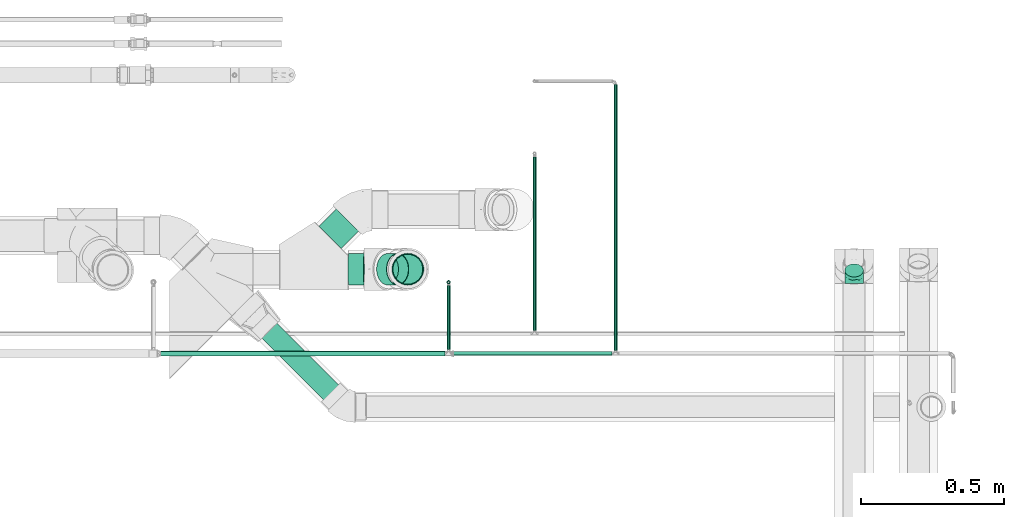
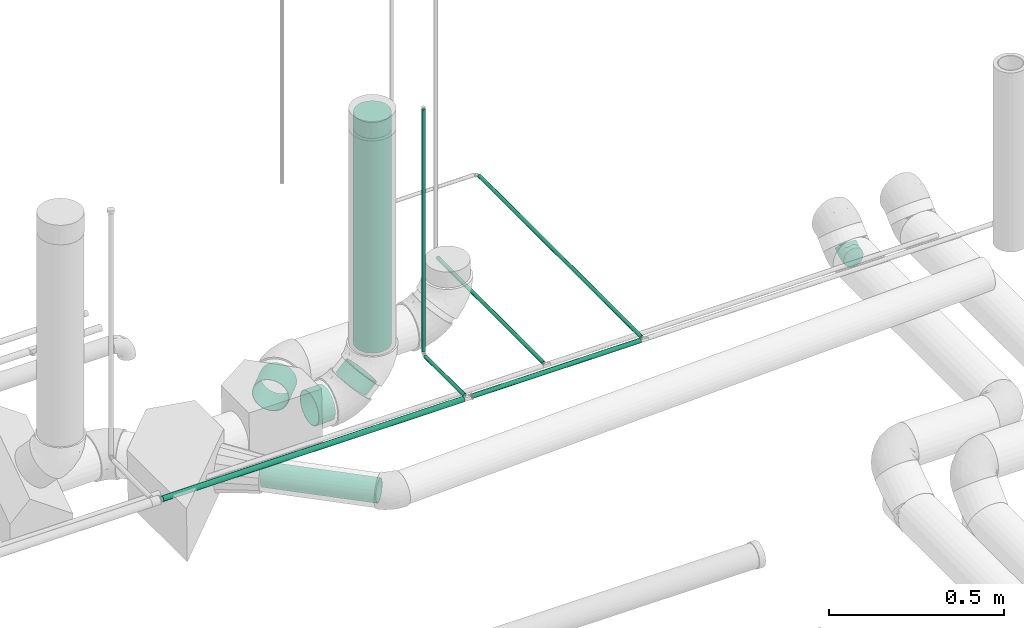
# One storey, part 60 of 156: 11 flow segments, 2 flow fittings.
"""IFC2X3 building model written with IfcOpenShell, lengths in millimetres."""

from ifc_helpers import new_model, entity, si_unit, converted_unit, derived_unit, direction, frame, origin_with_axes, origin_2d_with_axis, place, context, subcontext, project, spatial, hollow_circle, extrude, open_shell, surface_model, source, transform, mapped, type_object, element, save


model = new_model("IFC2X3")

# Units and contexts
model_context = context("Model", 3, precision=0.01, world=frame((0.0, 4.29681676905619e-09, 0.0)), true_north=direction((4.01073788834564e-13, 1.0)))
plan_context = context("Plan", 3, precision=0.01, world=frame((0.0, 4.29681676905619e-09, 0.0)), true_north=direction((4.01073788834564e-13, 1.0)))
body_context = subcontext(model_context, "Body", "Model", "MODEL_VIEW")
ifc_project = project(units=[converted_unit("PLANEANGLEUNIT", "DEGREE", entity("IfcPositiveLengthMeasure", 0.0174532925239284), si_unit("PLANEANGLEUNIT", "RADIAN"), dimensions=[0, 0, 0, 0, 0, 0, 0]), si_unit("AREAUNIT", "SQUARE_METRE"), si_unit("LENGTHUNIT", "METRE", prefix="MILLI"), si_unit("MASSUNIT", "GRAM", prefix="KILO"), si_unit("POWERUNIT", "WATT"), si_unit("PRESSUREUNIT", "PASCAL", prefix="KILO"), si_unit("FORCEUNIT", "NEWTON", prefix="KILO"), si_unit("ELECTRICVOLTAGEUNIT", "VOLT"), si_unit("ELECTRICCURRENTUNIT", "AMPERE"), si_unit("THERMODYNAMICTEMPERATUREUNIT", "DEGREE_CELSIUS"), si_unit("TIMEUNIT", "SECOND"), si_unit("VOLUMEUNIT", "CUBIC_METRE"), derived_unit("LINEARVELOCITYUNIT", [(si_unit("LENGTHUNIT", "METRE"), 1), (si_unit("TIMEUNIT", "SECOND"), -1)]), derived_unit("VOLUMETRICFLOWRATEUNIT", [(si_unit("VOLUMEUNIT", "CUBIC_METRE"), 1), (si_unit("TIMEUNIT", "SECOND"), -1)]), derived_unit("THERMALTRANSMITTANCEUNIT", [(si_unit("POWERUNIT", "WATT"), 1), (si_unit("THERMODYNAMICTEMPERATUREUNIT", "KELVIN"), -1), (si_unit("AREAUNIT", "SQUARE_METRE"), -1)]), derived_unit("SOUNDPRESSUREUNIT", [(si_unit("PRESSUREUNIT", "PASCAL"), 1)])], contexts=[model_context, plan_context])

# Site, building, storey
site_placement = place(None, frame((0.0, -4.29681676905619e-09, 0.0), z_axis=(0.0, 0.0, 1.0), x_axis=(1.0, 0.0, 0.0)))
site = spatial("IfcSite", under=ifc_project, at=site_placement, CompositionType="ELEMENT")
building_placement = place(site_placement, frame((0.0, 4.29681676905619e-09, 0.0), z_axis=(0.0, 0.0, 1.0), x_axis=(1.0, 0.0, 0.0)))
building = spatial("IfcBuilding", under=site, at=building_placement, Name="mc-building", CompositionType="ELEMENT")
storey_placement = place(building_placement, frame((0.0, 0.0, 205200.0), z_axis=(0.0, 0.0, 1.0), x_axis=(1.0, 0.0, 0.0)))
storey = spatial("IfcBuildingStorey", under=building, at=storey_placement, Name="Nivå D + 1,2 m", CompositionType="ELEMENT", Elevation=205200.0)

# Flow fittings
pipe_fitting_type_1 = type_object("IfcPipeFittingType", Name="magi_pipe_fe_plug_001", PredefinedType="OBSTRUCTION")
shared_shape_1 = source(origin_with_axes(), body_context, "Body", "SurfaceModel", [
    surface_model("IfcShellBasedSurfaceModel", [(0.0, 27.5, -47.63139), (0.0, 14.23505, -53.12592), (0.0, 0.0, -55.0), (0.0, -38.89087, -38.89087), (0.0, 47.63139, -27.5), (0.0, 38.89087, -38.89087), (0.0, 53.12592, -14.23505), (0.0, -47.63139, -27.5), (0.0, -14.23505, -53.12592), (0.0, -27.5, -47.63139), (0.0, -53.12592, -14.23505), (0.0, -55.0, 0.0), (0.0, 55.0, 0.0), (0.0, 47.63139, 27.5), (0.0, 53.12592, 14.23505), (0.0, 27.5, 47.63139), (0.0, -38.89087, 38.89087), (0.0, 38.89087, 38.89087), (0.0, 14.23505, 53.12592), (0.0, 0.0, 55.0), (0.0, -47.63139, 27.5), (0.0, -53.12592, 14.23505), (0.0, -14.23505, 53.12592), (0.0, -27.5, 47.63139), (55.0, 0.0, -55.0), (55.0, 14.23505, -53.12592), (55.0, 27.5, -47.63139), (55.0, -38.89087, -38.89087), (55.0, 47.63139, -27.5), (55.0, 38.89087, -38.89087), (55.0, -53.12592, 14.23505), (55.0, -27.5, -47.63139), (55.0, -14.23505, -53.12592), (55.0, -47.63139, -27.5), (55.0, -55.0, 0.0), (55.0, -53.12592, -14.23505), (55.0, 53.12592, -14.23505), (55.0, 55.0, 0.0), (55.0, 53.12592, 14.23505), (55.0, 47.63139, 27.5), (55.0, -38.89087, 38.89087), (55.0, 27.5, 47.63139), (55.0, 38.89087, 38.89087), (55.0, 0.0, 55.0), (55.0, 14.23505, 53.12592), (55.0, -47.63139, 27.5), (55.0, -27.5, 47.63139), (55.0, -14.23505, 53.12592)], [open_shell([[[0, 1, 2]], [[0, 2, 3]], [[4, 0, 3]], [[5, 0, 4]], [[6, 4, 7]], [[8, 9, 2]], [[9, 3, 2]], [[10, 11, 7]], [[4, 3, 7]], [[6, 7, 11]], [[11, 12, 6]], [[13, 14, 12]], [[15, 13, 12]], [[16, 15, 12]], [[17, 13, 15]], [[18, 15, 19]], [[20, 16, 21]], [[21, 16, 11]], [[22, 19, 23]], [[16, 23, 19]], [[16, 19, 15]], [[12, 11, 16]], [[24, 25, 26]], [[27, 24, 26]], [[27, 26, 28]], [[28, 26, 29]], [[28, 30, 27]], [[24, 31, 32]], [[24, 27, 31]], [[33, 34, 35]], [[34, 33, 27]], [[27, 30, 34]], [[28, 36, 30]], [[37, 38, 39]], [[40, 37, 39]], [[40, 39, 41]], [[41, 39, 42]], [[43, 41, 44]], [[30, 40, 45]], [[30, 37, 40]], [[46, 43, 47]], [[43, 46, 40]], [[41, 43, 40]], [[37, 30, 36]], [[11, 34, 30]], [[21, 30, 45]], [[23, 40, 46]], [[22, 46, 47]], [[45, 40, 16]], [[45, 20, 21]], [[21, 11, 30]], [[16, 40, 23]], [[23, 46, 22]], [[47, 19, 22]], [[16, 20, 45]], [[47, 43, 19]], [[15, 44, 41]], [[42, 17, 41]], [[14, 39, 38]], [[42, 39, 13]], [[12, 38, 37]], [[44, 18, 43]], [[44, 15, 18]], [[43, 18, 19]], [[41, 17, 15]], [[42, 13, 17]], [[14, 13, 39]], [[38, 12, 14]], [[36, 12, 37]], [[28, 6, 36]], [[29, 26, 5]], [[28, 29, 4]], [[1, 26, 25]], [[28, 4, 6]], [[6, 12, 36]], [[0, 5, 26]], [[2, 1, 24]], [[5, 4, 29]], [[26, 1, 0]], [[1, 25, 24]], [[9, 32, 31]], [[27, 3, 31]], [[10, 33, 35]], [[27, 33, 7]], [[11, 35, 34]], [[32, 8, 24]], [[32, 9, 8]], [[24, 8, 2]], [[31, 3, 9]], [[27, 7, 3]], [[10, 7, 33]], [[35, 11, 10]]])]),
])
flow_fitting_1_placement = place(storey_placement, frame((328539.54391, 462607.54997, 5130.97500999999), z_axis=(1.0, 0.0, 0.0), x_axis=(0.0, 0.0, 1.0)))
element("IfcFlowFitting", 1, at=flow_fitting_1_placement, inside=storey, type_object=pipe_fitting_type_1, Name="magi_pipe_fe_plug_001", context=body_context, shape_type="MappedRepresentation", body=[
    mapped(shared_shape_1, transform((0.0, 0.0, 0.0), scale=1.0)),
])
pipe_fitting_type_2 = type_object("IfcPipeFittingType", Name="magi_pipe_elbow_short_001", PredefinedType="BEND")
shared_shape_2 = source(origin_with_axes(), body_context, "Body", "SurfaceModel", [
    surface_model("IfcShellBasedSurfaceModel", [(-26.92388, 16.25, -28.14582), (-26.92388, 8.41162, -31.39259), (-26.92388, 0.0, -32.5), (-26.92388, -22.98097, -22.98097), (-26.92388, 31.39259, -8.41162), (-26.92388, 28.14582, -16.25), (-26.92388, 22.98097, -22.98097), (-26.92388, -32.5, 0.0), (-26.92388, -31.39259, 8.41162), (-26.92388, -16.25, -28.14582), (-26.92388, -8.41162, -31.39259), (-26.92388, -31.39259, -8.41162), (-26.92388, -28.14582, -16.25), (-26.92388, -22.98097, 22.98097), (-26.92388, 31.39259, 8.41162), (-26.92388, 28.14582, 16.25), (-26.92388, 16.25, 28.14582), (-26.92388, 22.98097, 22.98097), (-26.92388, 0.0, 32.5), (-26.92388, 8.41162, 31.39259), (-26.92388, -28.14582, 16.25), (-26.92388, -8.41162, 31.39259), (-26.92388, -16.25, 28.14582), (-26.92388, 32.5, 0.0), (19.03806, 19.03806, -32.5), (13.09015, 24.98597, -31.39259), (7.54757, 30.52854, -28.14582), (35.28806, 2.78806, -22.98097), (2.78806, 35.28806, -22.98097), (-0.86404, 38.94016, -16.25), (-3.15985, 41.23597, -8.41162), (24.98597, 13.09015, -31.39259), (30.52854, 7.54757, -28.14582), (41.23597, -3.15985, -8.41162), (38.94016, -0.86404, -16.25), (42.01903, -3.94291, 0.0), (7.54757, 30.52854, 28.14582), (-3.15985, 41.23597, 8.41162), (-0.86404, 38.94016, 16.25), (13.09015, 24.98597, 31.39259), (2.78806, 35.28806, 22.98097), (19.03806, 19.03806, 32.5), (38.94016, -0.86404, 16.25), (41.23597, -3.15985, 8.41162), (35.28806, 2.78806, 22.98097), (30.52854, 7.54757, 28.14582), (24.98597, 13.09015, 31.39259), (-3.94291, 42.01903, 0.0), (8.27755, -19.98378, 18.11127), (-7.19012, -18.36825, 25.07827), (-10.49464, -24.85635, 19.03), (-10.85887, -30.385, 0.0), (-1.68902, -29.17777, 0.0), (-6.93692, -29.94166, 5.54969), (24.99692, -10.15526, 19.03), (-12.87772, -11.91748, 29.70333), (3.33702, -8.05628, 29.29384), (0.96468, 19.53831, 30.33412), (5.87525, 15.38404, 32.02729), (-9.6998, -3.12918, 32.06943), (-3.09119, 7.4628, 32.3858), (-16.28399, 4.50357, 32.30277), (-9.23169, 22.28727, 26.53318), (-14.33241, 27.25604, 20.50969), (17.53286, 0.67899, 29.70333), (-12.48753, 13.52414, 30.38292), (12.54235, -21.27083, 12.8085), (-5.82736, -28.11742, 11.28642), (10.09042, -24.36044, 7.06389), (-13.38854, 32.32279, 13.3524), (26.07709, -16.26681, 5.54969), (29.16382, -13.80706, 0.0), (-13.01769, 34.82467, 6.82863), (24.00259, -15.76146, 11.28642), (9.07146, 4.64613, 32.06943), (18.0725, -7.90413, 25.07827), (-14.48667, 34.97391, 0.0), (5.45506, -13.16968, 25.91695), (10.06855, -24.30762, 0.0), (21.82612, -19.43748, 0.0), (-9.6998, -3.12918, -32.06943), (-6.93692, -29.94166, -5.54969), (10.09042, -24.36044, -7.06389), (9.07146, 4.64613, -32.06943), (-14.4978, 13.13354, -30.33412), (-15.03259, 6.72373, -32.02729), (-9.13839, 29.40748, -20.50969), (18.0725, -7.90413, -25.07827), (-13.38854, 32.32279, -13.3524), (24.00259, -15.76146, -11.28641), (-15.41986, 33.82966, -6.82863), (-0.733, 18.39302, -30.38292), (-5.82736, -28.11742, -11.28641), (-9.23169, 22.28727, -26.53318), (-10.49464, -24.85635, -19.03), (-7.19012, -18.36825, -25.07827), (5.45506, -13.16968, -25.91695), (8.27755, -19.98378, -18.11127), (-12.87772, -11.91748, -29.70333), (17.53286, 0.67899, -29.70333), (3.33702, -8.05628, -29.29384), (26.07709, -16.26681, -5.54969), (8.33002, 14.69902, -32.30277), (6.17196, -23.90953, -12.80849), (24.99692, -10.15526, -19.03), (-3.09119, 7.4628, -32.3858)], [open_shell([[[0, 1, 2]], [[0, 2, 3]], [[4, 5, 6]], [[6, 0, 7]], [[6, 7, 8]], [[9, 3, 10]], [[3, 2, 10]], [[11, 7, 12]], [[3, 12, 7]], [[3, 7, 0]], [[8, 4, 6]], [[13, 14, 4]], [[15, 14, 16]], [[13, 16, 14]], [[17, 15, 16]], [[16, 18, 19]], [[20, 13, 8]], [[8, 13, 4]], [[21, 18, 22]], [[16, 13, 22]], [[16, 22, 18]], [[23, 4, 14]], [[24, 25, 26]], [[27, 24, 26]], [[28, 29, 30]], [[27, 26, 28]], [[27, 28, 30]], [[31, 27, 32]], [[31, 24, 27]], [[27, 33, 34]], [[33, 27, 35]], [[27, 36, 35]], [[27, 30, 36]], [[30, 37, 36]], [[36, 37, 38]], [[39, 35, 36]], [[36, 38, 40]], [[35, 39, 41]], [[35, 42, 43]], [[35, 44, 42]], [[45, 41, 46]], [[44, 35, 45]], [[41, 45, 35]], [[37, 30, 47]], [[48, 49, 50]], [[51, 52, 53]], [[22, 13, 49]], [[42, 44, 54]], [[55, 49, 56]], [[50, 49, 13]], [[39, 57, 58]], [[21, 22, 55]], [[59, 60, 61]], [[18, 21, 59]], [[17, 62, 63]], [[45, 46, 64]], [[61, 19, 18]], [[16, 65, 62]], [[8, 51, 53]], [[36, 40, 62]], [[66, 67, 68]], [[62, 17, 16]], [[13, 20, 50]], [[15, 63, 69]], [[14, 15, 69]], [[43, 70, 71]], [[72, 23, 14]], [[73, 66, 68]], [[67, 53, 68]], [[16, 19, 65]], [[41, 58, 74]], [[44, 45, 75]], [[38, 37, 69]], [[74, 46, 41]], [[48, 50, 67]], [[44, 75, 54]], [[60, 58, 57]], [[75, 45, 64]], [[20, 67, 50]], [[70, 43, 73]], [[48, 54, 75]], [[61, 65, 19]], [[48, 66, 54]], [[14, 69, 72]], [[20, 8, 67]], [[76, 72, 47]], [[49, 77, 56]], [[37, 72, 69]], [[56, 74, 59]], [[38, 69, 63]], [[56, 64, 74]], [[38, 63, 40]], [[60, 59, 74]], [[39, 36, 57]], [[57, 62, 65]], [[55, 59, 21]], [[15, 17, 63]], [[73, 43, 42]], [[73, 42, 54]], [[77, 48, 75]], [[40, 63, 62]], [[62, 57, 36]], [[60, 57, 65]], [[49, 55, 22]], [[59, 55, 56]], [[74, 64, 46]], [[75, 64, 56]], [[8, 7, 51]], [[68, 52, 78]], [[8, 53, 67]], [[52, 68, 53]], [[70, 68, 79]], [[71, 70, 79]], [[71, 35, 43]], [[68, 70, 73]], [[74, 58, 60]], [[41, 39, 58]], [[59, 61, 18]], [[65, 61, 60]], [[48, 77, 49]], [[75, 56, 77]], [[47, 72, 37]], [[72, 76, 23]], [[54, 66, 73]], [[67, 66, 48]], [[79, 68, 78]], [[10, 2, 80]], [[52, 81, 82]], [[24, 31, 83]], [[84, 85, 1]], [[5, 86, 6]], [[32, 27, 87]], [[88, 86, 5]], [[34, 33, 89]], [[4, 90, 88]], [[26, 25, 91]], [[11, 81, 51]], [[0, 84, 1]], [[81, 11, 92]], [[28, 93, 86]], [[92, 12, 94]], [[94, 3, 95]], [[3, 9, 95]], [[96, 97, 95]], [[11, 12, 92]], [[3, 94, 12]], [[98, 9, 10]], [[99, 83, 31]], [[30, 29, 88]], [[100, 98, 80]], [[23, 76, 90]], [[97, 94, 95]], [[47, 30, 90]], [[100, 80, 83]], [[28, 26, 93]], [[88, 5, 4]], [[29, 86, 88]], [[98, 95, 9]], [[91, 93, 26]], [[85, 80, 2]], [[93, 91, 84]], [[6, 93, 0]], [[33, 71, 101]], [[102, 25, 24]], [[99, 31, 32]], [[103, 89, 82]], [[27, 104, 87]], [[100, 99, 87]], [[27, 34, 104]], [[105, 102, 83]], [[104, 97, 87]], [[105, 83, 80]], [[101, 71, 79]], [[102, 91, 25]], [[105, 85, 84]], [[81, 92, 82]], [[97, 103, 94]], [[87, 96, 100]], [[34, 89, 104]], [[30, 88, 90]], [[97, 104, 89]], [[29, 28, 86]], [[6, 86, 93]], [[93, 84, 0]], [[105, 84, 91]], [[80, 98, 10]], [[95, 98, 100]], [[87, 99, 32]], [[83, 99, 100]], [[51, 81, 52]], [[51, 7, 11]], [[103, 82, 92]], [[101, 82, 89]], [[82, 79, 78]], [[33, 35, 71]], [[82, 101, 79]], [[33, 101, 89]], [[80, 85, 105]], [[2, 1, 85]], [[83, 102, 24]], [[91, 102, 105]], [[97, 96, 87]], [[95, 100, 96]], [[23, 90, 4]], [[90, 76, 47]], [[94, 103, 92]], [[89, 103, 97]], [[52, 82, 78]]])]),
])
flow_fitting_2_placement = place(storey_placement, frame((330095.273, 462584.4701, 4163.33854999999), z_axis=(-0.999999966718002, 0.000257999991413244, 0.0), x_axis=(-0.000182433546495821, -0.707106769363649, -0.707106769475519)))
element("IfcFlowFitting", 2, at=flow_fitting_2_placement, inside=storey, type_object=pipe_fitting_type_2, Name="magi_pipe_elbow_short_001", context=body_context, shape_type="MappedRepresentation", body=[
    mapped(shared_shape_2, transform((0.0, 0.0, 0.0), scale=1.0)),
])

# Flow segments
pipe_segment_type_1 = type_object("IfcPipeSegmentType", Name="MA", PredefinedType="RIGIDSEGMENT")
shared_shape_3 = source(origin_with_axes(), body_context, "Body", "SweptSolid", [
    extrude(hollow_circle(Radius=55.0, WallThickness=2.0, at=origin_2d_with_axis()), frame((0.0, 0.0, 0.0), z_axis=(1.0, 0.0, 0.0), x_axis=(0.0, 1.0, 0.0)), (0.0, 0.0, 1.0), 748.0),
])
flow_segment_1_placement = place(storey_placement, frame((328539.54391, 462607.54997, 5130.97500999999), z_axis=(1.0, 0.0, 0.0), x_axis=(0.0, 0.000159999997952, -0.9999999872)))
element("IfcFlowSegment", 3, at=flow_segment_1_placement, inside=storey, type_object=pipe_segment_type_1, Name="MA", context=body_context, shape_type="MappedRepresentation", body=[
    mapped(shared_shape_3, transform((0.0, 0.0, 0.0), scale=1.0)),
])
shared_shape_4 = source(origin_with_axes(), body_context, "Body", "SweptSolid", [
    extrude(hollow_circle(Radius=37.5, WallThickness=2.0, at=origin_2d_with_axis()), frame((0.0, 0.0, 0.0), z_axis=(1.0, 0.0, 0.0), x_axis=(0.0, 1.0, 0.0)), (0.0, 0.0, 1.0), 341.2),
])
flow_segment_2_placement = place(storey_placement, frame((328057.04639, 462393.09475, 4222.20538), z_axis=(-0.707007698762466, -0.70717169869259, -0.00694999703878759), x_axis=(0.707009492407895, -0.707008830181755, 0.0166160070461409)))
element("IfcFlowSegment", 4, at=flow_segment_2_placement, inside=storey, type_object=pipe_segment_type_1, Name="MA", context=body_context, shape_type="MappedRepresentation", body=[
    mapped(shared_shape_4, transform((0.0, 0.0, 0.0), scale=1.0)),
])
shared_shape_5 = source(origin_with_axes(), body_context, "Body", "SweptSolid", [
    extrude(hollow_circle(Radius=55.0, WallThickness=2.0, at=origin_2d_with_axis()), frame((0.0, 0.0, 0.0), z_axis=(1.0, 0.0, 0.0), x_axis=(0.0, 1.0, 0.0)), (0.0, 0.0, 1.0), 54.0),
])
flow_segment_3_placement = place(storey_placement, frame((328332.51057, 462607.66, 4226.35513000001), z_axis=(5.49999762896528e-05, -0.999996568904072, -0.00261899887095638), x_axis=(0.999780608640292, 1.30380445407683e-07, 0.0209459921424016)))
element("IfcFlowSegment", 5, at=flow_segment_3_placement, inside=storey, type_object=pipe_segment_type_1, Name="MA", context=body_context, shape_type="MappedRepresentation", body=[
    mapped(shared_shape_5, transform((0.0, 0.0, 0.0), scale=1.0)),
])
shared_shape_6 = source(origin_with_axes(), body_context, "Body", "SweptSolid", [
    extrude(hollow_circle(Radius=55.0, WallThickness=2.0, at=origin_2d_with_axis()), frame((0.0, 0.0, 0.0), z_axis=(1.0, 0.0, 0.0), x_axis=(0.0, 1.0, 0.0)), (0.0, 0.0, 1.0), 85.8),
])
flow_segment_4_placement = place(storey_placement, frame((328268.63286, 462719.23103, 4225.30914999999), z_axis=(0.707204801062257, -0.706792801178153, -0.017472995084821), x_axis=(0.707008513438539, 0.707008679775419, 0.0166639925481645)))
element("IfcFlowSegment", 6, at=flow_segment_4_placement, inside=storey, type_object=pipe_segment_type_1, Name="MA", context=body_context, shape_type="MappedRepresentation", body=[
    mapped(shared_shape_6, transform((0.0, 0.0, 0.0), scale=1.0)),
])
shared_shape_7 = source(origin_with_axes(), body_context, "Body", "SweptSolid", [
    extrude(hollow_circle(Radius=55.0, WallThickness=2.0, at=origin_2d_with_axis()), frame((0.0, 0.0, 0.0), z_axis=(1.0, 0.0, 0.0), x_axis=(0.0, 1.0, 0.0)), (0.0, 0.0, 1.0), 48.8),
])
flow_segment_5_placement = place(storey_placement, frame((328469.56393, 462607.66, 4262.90057), z_axis=(-0.707106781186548, 0.0, 0.707106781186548), x_axis=(0.707106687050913, 0.00051599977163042, 0.707106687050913)))
element("IfcFlowSegment", 7, at=flow_segment_5_placement, inside=storey, type_object=pipe_segment_type_1, Name="MA", context=body_context, shape_type="MappedRepresentation", body=[
    mapped(shared_shape_7, transform((0.0, 0.0, 0.0), scale=1.0)),
])
pipe_segment_type_2 = type_object("IfcPipeSegmentType", Name="Kobberrør", PredefinedType="RIGIDSEGMENT")
shared_shape_8 = source(origin_with_axes(), body_context, "Body", "SweptSolid", [
    extrude(hollow_circle(Radius=6.0, WallThickness=2.0, at=origin_2d_with_axis()), frame((0.0, 0.0, 0.0), z_axis=(1.0, 0.0, 0.0), x_axis=(0.0, 1.0, 0.0)), (0.0, 0.0, 1.0), 223.5),
])
flow_segment_6_placement = place(storey_placement, frame((328681.53073, 462327.13355, 4318.0), z_axis=(0.0, 0.0, 1.0), x_axis=(0.0, 1.0, 0.0)))
element("IfcFlowSegment", 8, at=flow_segment_6_placement, inside=storey, type_object=pipe_segment_type_2, Name="Kobberrør", context=body_context, shape_type="MappedRepresentation", body=[
    mapped(shared_shape_8, transform((0.0, 0.0, 0.0), scale=1.0)),
])
shared_shape_9 = source(origin_with_axes(), body_context, "Body", "SweptSolid", [
    extrude(hollow_circle(Radius=9.0, WallThickness=2.0, at=origin_2d_with_axis()), frame((0.0, 0.0, 0.0), z_axis=(1.0, 0.0, 0.0), x_axis=(0.0, 1.0, 0.0)), (0.0, 0.0, 1.0), 992.0),
])
flow_segment_7_placement = place(storey_placement, frame((327677.53293, 462313.63355, 4318.0), z_axis=(0.0, 0.0, 1.0), x_axis=(1.0, 0.0, 0.0)))
element("IfcFlowSegment", 9, at=flow_segment_7_placement, inside=storey, type_object=pipe_segment_type_2, Name="Kobberrør", context=body_context, shape_type="MappedRepresentation", body=[
    mapped(shared_shape_9, transform((0.0, 0.0, 0.0), scale=1.0)),
])
shared_shape_10 = source(origin_with_axes(), body_context, "Body", "SweptSolid", [
    extrude(hollow_circle(Radius=6.0, WallThickness=2.0, at=origin_2d_with_axis()), frame((0.0, 0.0, 0.0), z_axis=(1.0, 0.0, 0.0), x_axis=(0.0, 1.0, 0.0)), (0.0, 0.0, 1.0), 844.0),
])
flow_segment_8_placement = place(storey_placement, frame((328681.53073, 462562.63355, 4330.0), z_axis=(0.0, 1.0, 0.0), x_axis=(0.0, 0.0, 1.0)))
element("IfcFlowSegment", 10, at=flow_segment_8_placement, inside=storey, type_object=pipe_segment_type_2, Name="Kobberrør", context=body_context, shape_type="MappedRepresentation", body=[
    mapped(shared_shape_10, transform((0.0, 0.0, 0.0), scale=1.0)),
])
shared_shape_11 = source(origin_with_axes(), body_context, "Body", "SweptSolid", [
    extrude(hollow_circle(Radius=6.0, WallThickness=2.0, at=origin_2d_with_axis()), frame((0.0, 0.0, 0.0), z_axis=(1.0, 0.0, 0.0), x_axis=(0.0, 1.0, 0.0)), (0.0, 0.0, 1.0), 604.3),
])
flow_segment_9_placement = place(storey_placement, frame((328981.34469, 462394.9786, 4285.29996), z_axis=(0.0, 0.0, 1.0), x_axis=(0.0, 1.0, 0.0)))
element("IfcFlowSegment", 11, at=flow_segment_9_placement, inside=storey, type_object=pipe_segment_type_2, Name="Kobberrør", context=body_context, shape_type="MappedRepresentation", body=[
    mapped(shared_shape_11, transform((0.0, 0.0, 0.0), scale=1.0)),
])
shared_shape_12 = source(origin_with_axes(), body_context, "Body", "SweptSolid", [
    extrude(hollow_circle(Radius=6.0, WallThickness=2.0, at=origin_2d_with_axis()), frame((0.0, 0.0, 0.0), z_axis=(1.0, 0.0, 0.0), x_axis=(0.0, 1.0, 0.0)), (0.0, 0.0, 1.0), 926.5),
])
flow_segment_10_placement = place(storey_placement, frame((329263.73717, 462324.88355, 4318.0), z_axis=(0.0, 0.0, 1.0), x_axis=(0.0, 1.0, 0.0)))
element("IfcFlowSegment", 12, at=flow_segment_10_placement, inside=storey, type_object=pipe_segment_type_2, Name="Kobberrør", context=body_context, shape_type="MappedRepresentation", body=[
    mapped(shared_shape_12, transform((0.0, 0.0, 0.0), scale=1.0)),
])
shared_shape_13 = source(origin_with_axes(), body_context, "Body", "SweptSolid", [
    extrude(hollow_circle(Radius=7.5, WallThickness=2.0, at=origin_2d_with_axis()), frame((0.0, 0.0, 0.0), z_axis=(1.0, 0.0, 0.0), x_axis=(0.0, 1.0, 0.0)), (0.0, 0.0, 1.0), 554.8),
])
flow_segment_11_placement = place(storey_placement, frame((328696.93073, 462313.63355, 4318.0), z_axis=(0.0, 0.0, 1.0), x_axis=(1.0, 0.0, 0.0)))
element("IfcFlowSegment", 13, at=flow_segment_11_placement, inside=storey, type_object=pipe_segment_type_2, Name="Kobberrør", context=body_context, shape_type="MappedRepresentation", body=[
    mapped(shared_shape_13, transform((0.0, 0.0, 0.0), scale=1.0)),
])

save(model, "model.ifc")
